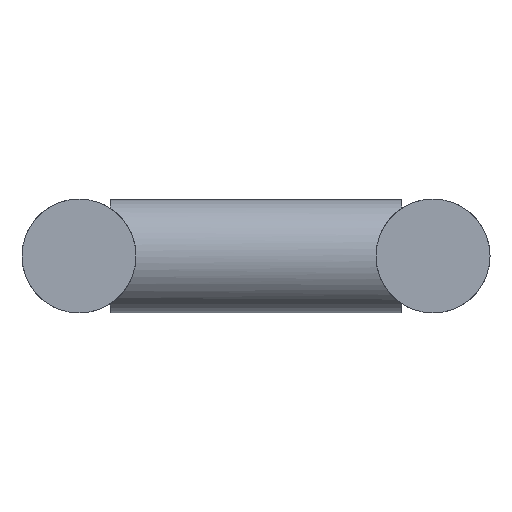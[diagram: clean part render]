
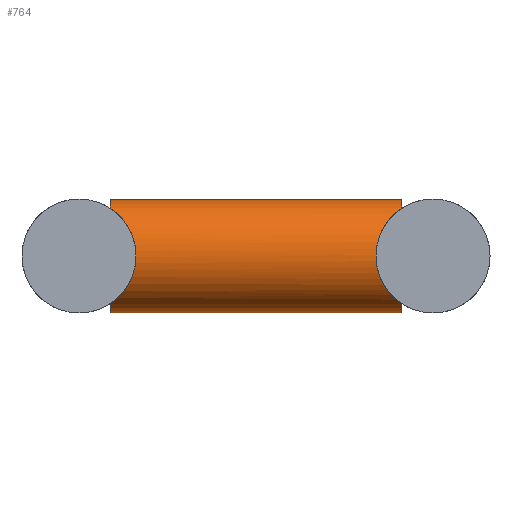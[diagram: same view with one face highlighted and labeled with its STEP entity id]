
A CAD part, left-side view. The second image highlights one B-rep face of the part: STEP entity #764.
In plain terms, the highlighted cylindrical face has radius 24.15 mm (diameter 48.3 mm), a full revolution.
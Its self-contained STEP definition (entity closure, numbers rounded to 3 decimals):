
#37=FACE_BOUND('',#180,.T.);
#87=ELLIPSE('',#842,34.153,24.15);
#88=ELLIPSE('',#843,34.153,24.15);
#89=ELLIPSE('',#844,34.153,24.15);
#90=ELLIPSE('',#845,34.153,24.15);
#98=CYLINDRICAL_SURFACE('',#841,24.15);
#129=FACE_OUTER_BOUND('',#179,.T.);
#179=EDGE_LOOP('',(#541,#542,#543,#544));
#180=EDGE_LOOP('',(#545,#546,#547,#548));
#257=CIRCLE('',#834,24.15);
#258=CIRCLE('',#836,24.15);
#259=CIRCLE('',#838,24.15);
#260=CIRCLE('',#840,24.15);
#345=VERTEX_POINT('',#1202);
#346=VERTEX_POINT('',#1203);
#347=VERTEX_POINT('',#1207);
#348=VERTEX_POINT('',#1208);
#349=VERTEX_POINT('',#1212);
#350=VERTEX_POINT('',#1213);
#351=VERTEX_POINT('',#1217);
#352=VERTEX_POINT('',#1218);
#430=EDGE_CURVE('',#345,#346,#257,.T.);
#432=EDGE_CURVE('',#347,#348,#258,.T.);
#434=EDGE_CURVE('',#349,#350,#259,.T.);
#436=EDGE_CURVE('',#351,#352,#260,.T.);
#437=EDGE_CURVE('',#348,#345,#87,.T.);
#438=EDGE_CURVE('',#346,#347,#88,.T.);
#439=EDGE_CURVE('',#352,#349,#89,.T.);
#440=EDGE_CURVE('',#350,#351,#90,.T.);
#541=ORIENTED_EDGE('',*,*,#437,.F.);
#542=ORIENTED_EDGE('',*,*,#432,.F.);
#543=ORIENTED_EDGE('',*,*,#438,.F.);
#544=ORIENTED_EDGE('',*,*,#430,.F.);
#545=ORIENTED_EDGE('',*,*,#439,.F.);
#546=ORIENTED_EDGE('',*,*,#436,.F.);
#547=ORIENTED_EDGE('',*,*,#440,.F.);
#548=ORIENTED_EDGE('',*,*,#434,.F.);
#764=ADVANCED_FACE('',(#129,#37),#98,.T.);
#834=AXIS2_PLACEMENT_3D('',#1205,#992,#993);
#836=AXIS2_PLACEMENT_3D('',#1210,#997,#998);
#838=AXIS2_PLACEMENT_3D('',#1215,#1002,#1003);
#840=AXIS2_PLACEMENT_3D('',#1220,#1007,#1008);
#841=AXIS2_PLACEMENT_3D('',#1221,#1009,#1010);
#842=AXIS2_PLACEMENT_3D('',#1222,#1011,#1012);
#843=AXIS2_PLACEMENT_3D('',#1223,#1013,#1014);
#844=AXIS2_PLACEMENT_3D('',#1224,#1015,#1016);
#845=AXIS2_PLACEMENT_3D('',#1225,#1017,#1018);
#992=DIRECTION('center_axis',(0.,1.,0.));
#993=DIRECTION('ref_axis',(1.,0.,0.));
#997=DIRECTION('center_axis',(0.,1.,0.));
#998=DIRECTION('ref_axis',(1.,0.,0.));
#1002=DIRECTION('center_axis',(0.,-1.,0.));
#1003=DIRECTION('ref_axis',(1.,0.,0.));
#1007=DIRECTION('center_axis',(0.,-1.,0.));
#1008=DIRECTION('ref_axis',(1.,0.,0.));
#1009=DIRECTION('center_axis',(0.,-1.,0.));
#1010=DIRECTION('ref_axis',(1.,0.,0.));
#1011=DIRECTION('center_axis',(0.707,0.707,0.));
#1012=DIRECTION('ref_axis',(0.707,-0.707,0.));
#1013=DIRECTION('center_axis',(-0.707,0.707,0.));
#1014=DIRECTION('ref_axis',(0.707,0.707,0.));
#1015=DIRECTION('center_axis',(-0.707,-0.707,0.));
#1016=DIRECTION('ref_axis',(0.707,-0.707,0.));
#1017=DIRECTION('center_axis',(0.707,-0.707,0.));
#1018=DIRECTION('ref_axis',(0.707,0.707,0.));
#1202=CARTESIAN_POINT('',(89.3,61.85,-20.256));
#1203=CARTESIAN_POINT('',(63.,61.85,-20.256));
#1205=CARTESIAN_POINT('Origin',(76.15,61.85,0.));
#1207=CARTESIAN_POINT('',(63.,61.85,20.256));
#1208=CARTESIAN_POINT('',(89.3,61.85,20.256));
#1210=CARTESIAN_POINT('Origin',(76.15,61.85,0.));
#1212=CARTESIAN_POINT('',(63.,-61.85,-20.256));
#1213=CARTESIAN_POINT('',(89.3,-61.85,-20.256));
#1215=CARTESIAN_POINT('Origin',(76.15,-61.85,0.));
#1217=CARTESIAN_POINT('',(89.3,-61.85,20.256));
#1218=CARTESIAN_POINT('',(63.,-61.85,20.256));
#1220=CARTESIAN_POINT('Origin',(76.15,-61.85,0.));
#1221=CARTESIAN_POINT('Origin',(76.15,61.85,0.));
#1222=CARTESIAN_POINT('Origin',(76.15,75.,0.));
#1223=CARTESIAN_POINT('Origin',(76.15,75.,0.));
#1224=CARTESIAN_POINT('Origin',(76.15,-75.,0.));
#1225=CARTESIAN_POINT('Origin',(76.15,-75.,0.));
